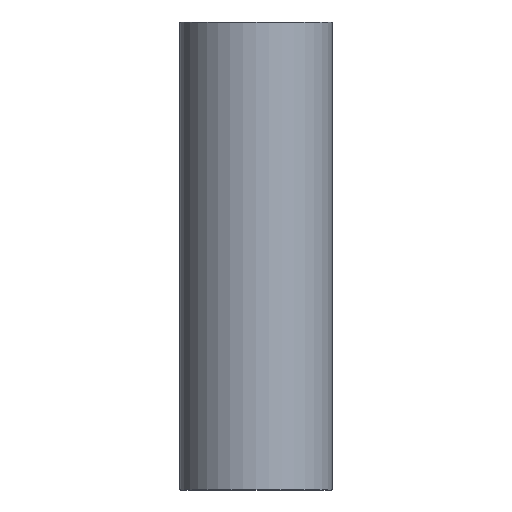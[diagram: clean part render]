
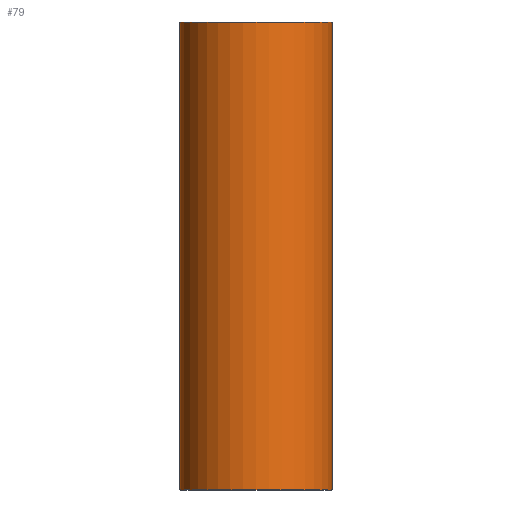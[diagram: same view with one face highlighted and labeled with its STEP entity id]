
A CAD part, front view. The second image highlights one B-rep face of the part: STEP entity #79.
In plain terms, the highlighted cylindrical face has radius 37.5 mm (diameter 75 mm), a full revolution.
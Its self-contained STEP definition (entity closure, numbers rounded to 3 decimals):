
#79=ADVANCED_FACE('',(#96,#97),#98,.T.);
#96=FACE_OUTER_BOUND('',#120,.T.);
#97=FACE_OUTER_BOUND('',#121,.T.);
#98=CYLINDRICAL_SURFACE('',#122,37.5);
#120=EDGE_LOOP('',(#152));
#121=EDGE_LOOP('',(#153));
#122=AXIS2_PLACEMENT_3D('',#154,#155,#156);
#152=ORIENTED_EDGE('',*,*,#178,.T.);
#153=ORIENTED_EDGE('',*,*,#177,.T.);
#154=CARTESIAN_POINT('',(0.,0.0,230.0));
#155=DIRECTION('',(0.0,0.0,-1.0));
#156=DIRECTION('',(-1.0,0.0,0.0));
#177=EDGE_CURVE('',#190,#190,#191,.T.);
#178=EDGE_CURVE('',#192,#192,#193,.F.);
#190=VERTEX_POINT('',#206);
#191=CIRCLE('',#207,37.5);
#192=VERTEX_POINT('',#208);
#193=CIRCLE('',#209,37.5);
#206=CARTESIAN_POINT('',(37.5,0.0,0.2));
#207=AXIS2_PLACEMENT_3D('',#227,#228,#229);
#208=CARTESIAN_POINT('',(37.5,0.,229.8));
#209=AXIS2_PLACEMENT_3D('',#230,#231,#232);
#227=CARTESIAN_POINT('',(0.,0.0,0.2));
#228=DIRECTION('',(0.0,0.0,1.0));
#229=DIRECTION('',(1.0,0.0,0.0));
#230=CARTESIAN_POINT('',(0.,0.0,229.8));
#231=DIRECTION('',(0.0,0.0,1.0));
#232=DIRECTION('',(1.0,0.0,0.0));
